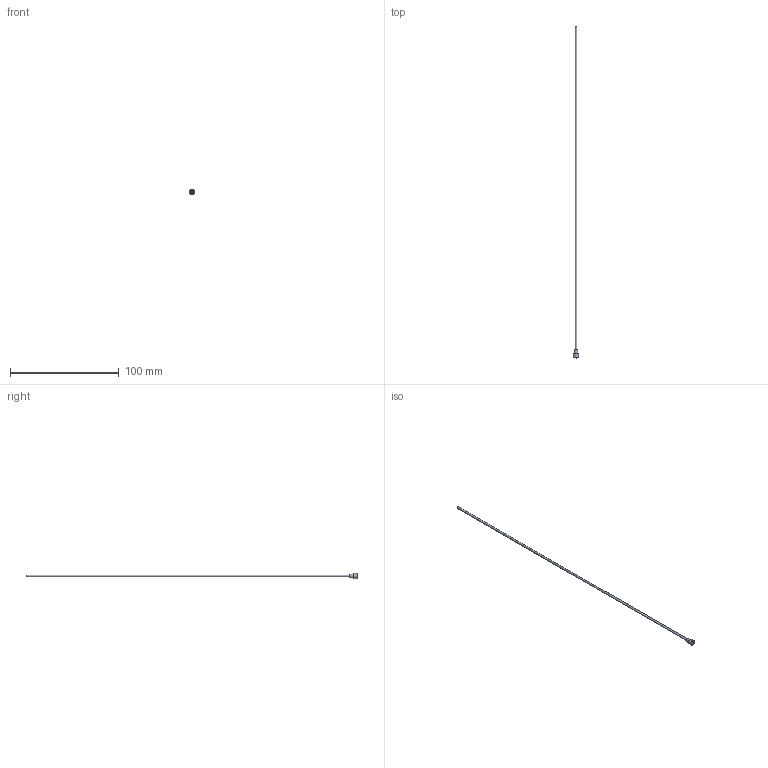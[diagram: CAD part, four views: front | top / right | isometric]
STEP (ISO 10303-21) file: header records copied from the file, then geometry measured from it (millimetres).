
FILE_DESCRIPTION(/* description */ (''),/* implementation_level */ '2;1');
FILE_NAME(/* name */ 'C:/Users/drich/Desktop/R072T-12 v1.step',/* time_stamp */ '2019-12-30T13:10:06-06:00',/* author */ (''),/* organization */ (''),/* preprocessor_version */ 'ST-DEVELOPER v18',/* originating_system */ 'Autodesk Translation Framework v8.12.0.6',/* authorisation */ '');
FILE_SCHEMA (('AUTOMOTIVE_DESIGN { 1 0 10303 214 3 1 1 }'));
Length unit declared in the file: inch
Products named in the file (1): R072T-12
Bounding box: 4.62 x 304.8 x 4.62 mm (x, y, z)
Volume: 295 mm3; surface area: 3306.7 mm2
Topology: 1 solids, 1 shells, 19 faces, 47 edges, 33 vertices
Faces by surface type: plane 11, cylinder 4, torus 3, cone 1
Full cylindrical faces by diameter (mm): 1.524 x1, 1.829 x1, 3.096 x1, 4.623 x1
Entity records: 624 total; most frequent: DIRECTION 111, CARTESIAN_POINT 100, ORIENTED_EDGE 94, EDGE_CURVE 47, AXIS2_PLACEMENT_3D 44, VERTEX_POINT 33, EDGE_LOOP 24, CIRCLE 24
